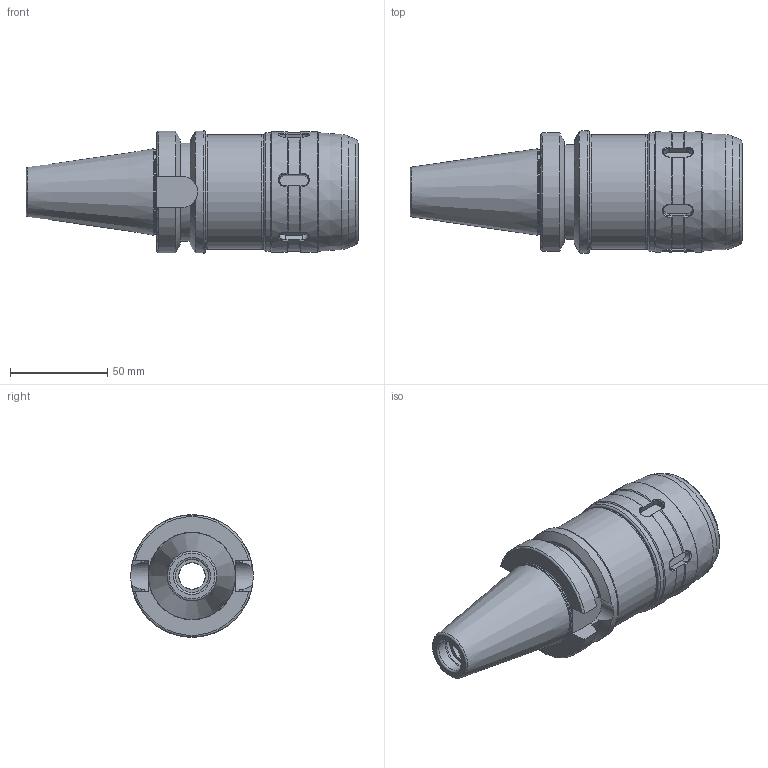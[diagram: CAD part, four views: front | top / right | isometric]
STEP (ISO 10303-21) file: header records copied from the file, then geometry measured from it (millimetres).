
FILE_DESCRIPTION(/* description */ (''),/* implementation_level */ '2;1');
FILE_NAME(/* name */ '\\SSKT-NAS\Lab-Data\연구소\DRAWING_3D\1. 인벤터\4. LAY-OUT\STANDARD\MILLING CHUCK-C\BT40-C25-105\BT40-C25-105.stp',/* time_stamp */ '2021-06-15T13:35:04+09:00',/* author */ ('KKK'),/* organization */ (''),/* preprocessor_version */ 'ST-DEVELOPER v18',/* originating_system */ 'Autodesk Inventor 2020',/* authorisation */ '');
FILE_SCHEMA (('AUTOMOTIVE_DESIGN { 1 0 10303 214 3 1 1 }'));
Length unit declared in the file: millimetre
Products named in the file (3): LO-BT40-C25-105; LO-BT40-C25-105_1; C32-CAP
Assembly tree (2 placements, depth 2):
  LO-BT40-C25-105
    LO-BT40-C25-105_1
    C32-CAP
Bounding box: 170.9 x 63 x 63 mm (x, y, z)
Volume: 283176 mm3; surface area: 59768.6 mm2
Topology: 2 solids, 2 shells, 172 faces, 484 edges, 329 vertices
Faces by surface type: plane 69, cylinder 45, cone 32, torus 14, bspline 12
Full cylindrical faces by diameter (mm): 13.5 x1, 13.835 x1, 17 x1, 17.6 x1, 25 x1, 26 x1, 31.6 x1, 35.2 x1, 37.9 x1, 39.2 x1, 44 x1, 44.5 x3, 46.45 x2, 59 x1, 61 x1, 62 x2, 63 x1
Entity records: 6664 total; most frequent: CARTESIAN_POINT 2131, ORIENTED_EDGE 968, DIRECTION 925, EDGE_CURVE 484, AXIS2_PLACEMENT_3D 369, VERTEX_POINT 329, CIRCLE 204, EDGE_LOOP 189
